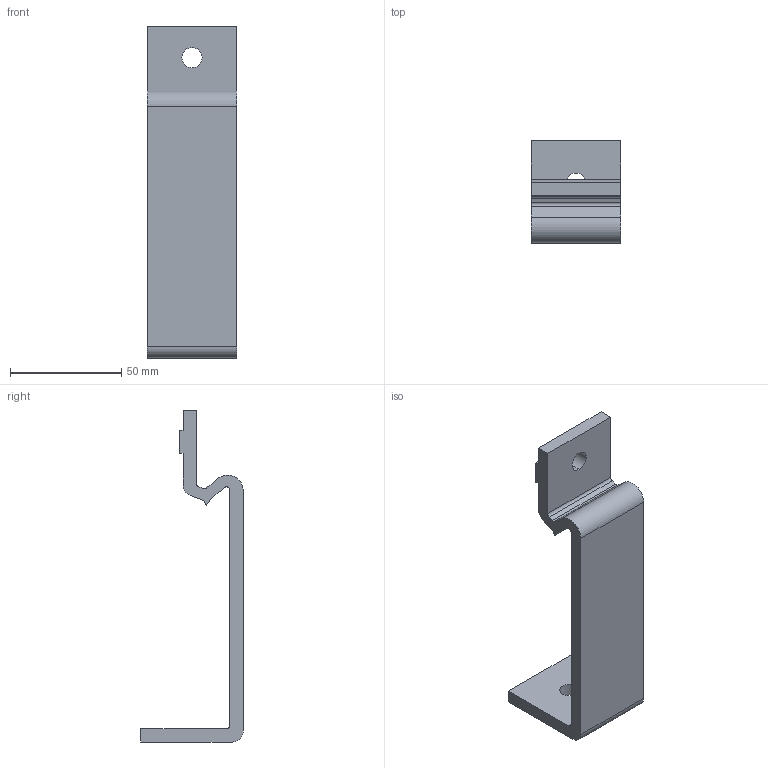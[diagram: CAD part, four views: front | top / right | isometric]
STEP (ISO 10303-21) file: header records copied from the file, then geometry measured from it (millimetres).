
FILE_DESCRIPTION (( 'STEP AP214' ), '1' );
FILE_NAME ('FAHBS 40B.step', '2017-04-05T07:55:14', ( '' ), ( '' ), 'SwSTEP 2.0', 'SolidWorks 2015', '' );
FILE_SCHEMA (( 'AUTOMOTIVE_DESIGN' ));
Length unit declared in the file: millimetre
Products named in the file (1): FAHBS 40B
Bounding box: 40 x 46 x 149.21 mm (x, y, z)
Volume: 50332.3 mm3; surface area: 20416.4 mm2
Topology: 1 solids, 1 shells, 31 faces, 87 edges, 58 vertices
Faces by surface type: plane 20, cylinder 11
Entity records: 1045 total; most frequent: CARTESIAN_POINT 177, ORIENTED_EDGE 174, DIRECTION 173, EDGE_CURVE 87, LINE 65, VECTOR 65, VERTEX_POINT 58, AXIS2_PLACEMENT_3D 54
